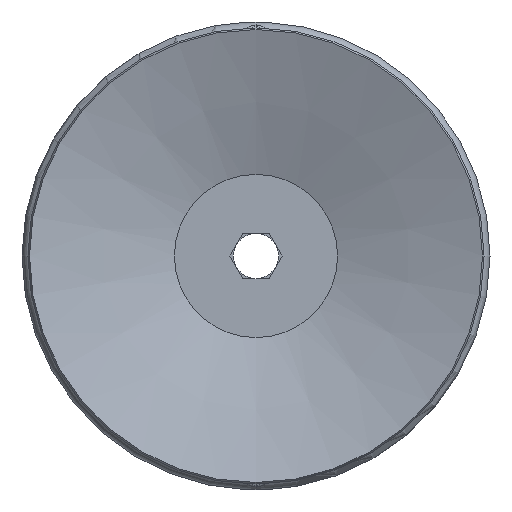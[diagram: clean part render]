
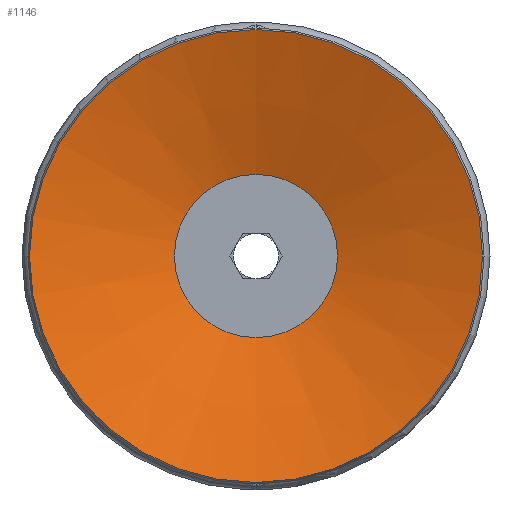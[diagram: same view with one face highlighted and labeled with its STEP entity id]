
A CAD part, front view. The second image highlights one B-rep face of the part: STEP entity #1146.
In plain terms, the highlighted conical face has half-angle 71.075 degrees and reference radius 15 mm.
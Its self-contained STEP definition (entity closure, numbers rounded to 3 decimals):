
#1146=ADVANCED_FACE('',(#2846,#2847),#2848,.F.);
#2846=FACE_BOUND('',#5163,.T.);
#2847=FACE_OUTER_BOUND('',#5164,.T.);
#2848=CONICAL_SURFACE('',#5165,15.0,1.24);
#5163=EDGE_LOOP('',(#8536));
#5164=EDGE_LOOP('',(#8537));
#5165=AXIS2_PLACEMENT_3D('',#8538,#8539,#8540);
#8536=ORIENTED_EDGE('',*,*,#15157,.T.);
#8537=ORIENTED_EDGE('',*,*,#15158,.T.);
#8538=CARTESIAN_POINT('',(0.,0.,0.0));
#8539=DIRECTION('',(0.0,0.,-1.0));
#8540=DIRECTION('',(0.0,1.0,0.));
#15157=EDGE_CURVE('',#18716,#18716,#18717,.T.);
#15158=EDGE_CURVE('',#18718,#18718,#18719,.T.);
#18716=VERTEX_POINT('',#24821);
#18717=CIRCLE('',#24822,5.4);
#18718=VERTEX_POINT('',#24823);
#18719=CIRCLE('',#24824,15.0);
#24821=CARTESIAN_POINT('',(-5.4,0.,3.291));
#24822=AXIS2_PLACEMENT_3D('',#30117,#30118,#30119);
#24823=CARTESIAN_POINT('',(0.,15.0,0.));
#24824=AXIS2_PLACEMENT_3D('',#30120,#30121,#30122);
#30117=CARTESIAN_POINT('',(0.,0.,3.291));
#30118=DIRECTION('',(0.,0.0,1.0));
#30119=DIRECTION('',(-1.0,0.0,0.));
#30120=CARTESIAN_POINT('',(0.,0.,0.0));
#30121=DIRECTION('',(0.0,0.,-1.0));
#30122=DIRECTION('',(0.0,1.0,0.));
